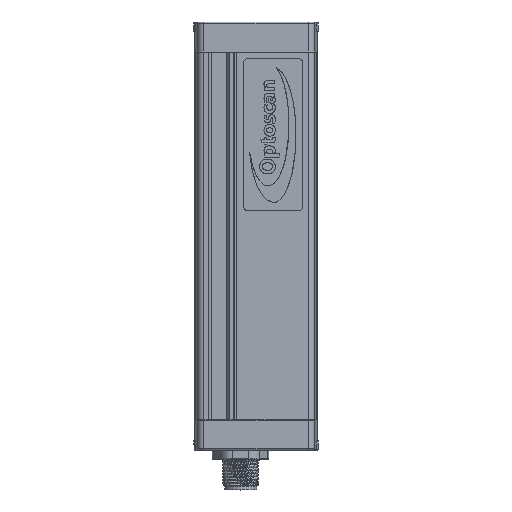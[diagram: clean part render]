
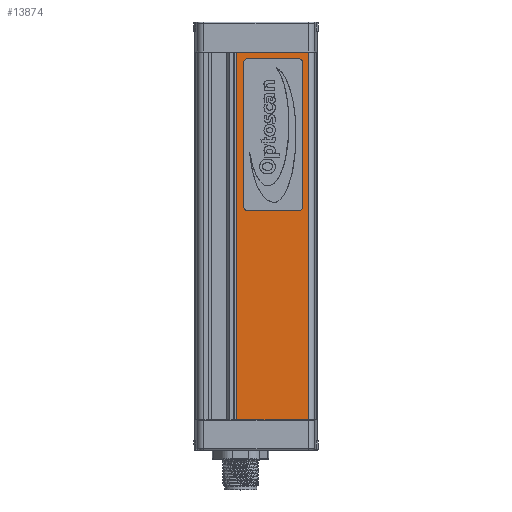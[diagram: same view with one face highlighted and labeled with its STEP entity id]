
A CAD part, top view. The second image highlights one B-rep face of the part: STEP entity #13874.
In plain terms, the highlighted planar face has unit normal (0, 0, 1).
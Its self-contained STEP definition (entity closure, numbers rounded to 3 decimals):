
#178=FACE_BOUND('',#2285,.T.);
#461=CIRCLE('',#14585,1.45);
#467=CIRCLE('',#14593,1.45);
#471=CIRCLE('',#14599,1.45);
#475=CIRCLE('',#14605,1.45);
#1052=PLANE('',#14718);
#1510=FACE_OUTER_BOUND('',#2284,.T.);
#2284=EDGE_LOOP('',(#9922,#9923,#9924,#9925));
#2285=EDGE_LOOP('',(#9926,#9927,#9928,#9929,#9930,#9931,#9932,#9933));
#3345=LINE('',#20295,#4416);
#3347=LINE('',#20307,#4418);
#3349=LINE('',#20319,#4420);
#3351=LINE('',#20328,#4422);
#3562=LINE('',#22495,#4633);
#3563=LINE('',#22497,#4634);
#3564=LINE('',#22499,#4635);
#3565=LINE('',#22500,#4636);
#4416=VECTOR('',#16169,10.);
#4418=VECTOR('',#16183,10.);
#4420=VECTOR('',#16197,10.);
#4422=VECTOR('',#16209,10.);
#4633=VECTOR('',#16644,10.);
#4634=VECTOR('',#16645,10.);
#4635=VECTOR('',#16646,10.);
#4636=VECTOR('',#16647,10.);
#5576=VERTEX_POINT('',#20283);
#5577=VERTEX_POINT('',#20285);
#5579=VERTEX_POINT('',#20291);
#5581=VERTEX_POINT('',#20297);
#5583=VERTEX_POINT('',#20303);
#5585=VERTEX_POINT('',#20309);
#5587=VERTEX_POINT('',#20315);
#5589=VERTEX_POINT('',#20321);
#5831=VERTEX_POINT('',#22493);
#5832=VERTEX_POINT('',#22494);
#5833=VERTEX_POINT('',#22496);
#5834=VERTEX_POINT('',#22498);
#6939=EDGE_CURVE('',#5576,#5577,#461,.T.);
#6944=EDGE_CURVE('',#5577,#5579,#3345,.T.);
#6947=EDGE_CURVE('',#5579,#5581,#467,.T.);
#6950=EDGE_CURVE('',#5581,#5583,#3347,.T.);
#6953=EDGE_CURVE('',#5583,#5585,#471,.T.);
#6956=EDGE_CURVE('',#5585,#5587,#3349,.T.);
#6959=EDGE_CURVE('',#5587,#5589,#475,.T.);
#6961=EDGE_CURVE('',#5589,#5576,#3351,.T.);
#7330=EDGE_CURVE('',#5831,#5832,#3562,.T.);
#7331=EDGE_CURVE('',#5832,#5833,#3563,.T.);
#7332=EDGE_CURVE('',#5834,#5833,#3564,.T.);
#7333=EDGE_CURVE('',#5831,#5834,#3565,.T.);
#9922=ORIENTED_EDGE('',*,*,#7330,.T.);
#9923=ORIENTED_EDGE('',*,*,#7331,.T.);
#9924=ORIENTED_EDGE('',*,*,#7332,.F.);
#9925=ORIENTED_EDGE('',*,*,#7333,.F.);
#9926=ORIENTED_EDGE('',*,*,#6939,.F.);
#9927=ORIENTED_EDGE('',*,*,#6961,.F.);
#9928=ORIENTED_EDGE('',*,*,#6959,.F.);
#9929=ORIENTED_EDGE('',*,*,#6956,.F.);
#9930=ORIENTED_EDGE('',*,*,#6953,.F.);
#9931=ORIENTED_EDGE('',*,*,#6950,.F.);
#9932=ORIENTED_EDGE('',*,*,#6947,.F.);
#9933=ORIENTED_EDGE('',*,*,#6944,.F.);
#13874=ADVANCED_FACE('',(#1510,#178),#1052,.T.);
#14585=AXIS2_PLACEMENT_3D('',#20286,#16158,#16159);
#14593=AXIS2_PLACEMENT_3D('',#20301,#16176,#16177);
#14599=AXIS2_PLACEMENT_3D('',#20313,#16190,#16191);
#14605=AXIS2_PLACEMENT_3D('',#20325,#16204,#16205);
#14718=AXIS2_PLACEMENT_3D('',#22492,#16642,#16643);
#16158=DIRECTION('center_axis',(0.,0.,
1.));
#16159=DIRECTION('ref_axis',(1.,0.,0.));
#16169=DIRECTION('',(1.,0.,0.));
#16176=DIRECTION('center_axis',(0.,0.,
1.));
#16177=DIRECTION('ref_axis',(1.,0.,0.));
#16183=DIRECTION('',(0.,1.,0.));
#16190=DIRECTION('center_axis',(0.,0.,
1.));
#16191=DIRECTION('ref_axis',(1.,0.,0.));
#16197=DIRECTION('',(-1.,0.,0.));
#16204=DIRECTION('center_axis',(0.,0.,
1.));
#16205=DIRECTION('ref_axis',(1.,0.,0.));
#16209=DIRECTION('',(0.,-1.,0.));
#16642=DIRECTION('center_axis',(0.,0.,
1.));
#16643=DIRECTION('ref_axis',(1.,0.,0.));
#16644=DIRECTION('',(1.,0.,0.));
#16645=DIRECTION('',(0.,1.,0.));
#16646=DIRECTION('',(1.,0.,0.));
#16647=DIRECTION('',(0.,1.,0.));
#20283=CARTESIAN_POINT('',(-42.765,69.7,28.879));
#20285=CARTESIAN_POINT('',(-41.315,68.25,28.879));
#20286=CARTESIAN_POINT('Origin',(-41.315,69.7,28.879));
#20291=CARTESIAN_POINT('',(-24.915,68.25,28.879));
#20295=CARTESIAN_POINT('',(-37.215,68.25,28.879));
#20297=CARTESIAN_POINT('',(-23.465,69.7,28.879));
#20301=CARTESIAN_POINT('Origin',(-24.915,69.7,28.879));
#20303=CARTESIAN_POINT('',(-23.465,116.5,28.879));
#20307=CARTESIAN_POINT('',(-23.465,81.4,28.879));
#20309=CARTESIAN_POINT('',(-24.915,117.95,28.879));
#20313=CARTESIAN_POINT('Origin',(-24.915,116.5,28.879));
#20315=CARTESIAN_POINT('',(-41.315,117.95,28.879));
#20319=CARTESIAN_POINT('',(-29.015,117.95,28.879));
#20321=CARTESIAN_POINT('',(-42.765,116.5,28.879));
#20325=CARTESIAN_POINT('Origin',(-41.315,116.5,28.879));
#20328=CARTESIAN_POINT('',(-42.765,104.8,28.879));
#22492=CARTESIAN_POINT('Origin',(-44.965,0.,
28.879));
#22493=CARTESIAN_POINT('',(-44.965,0.,28.879));
#22494=CARTESIAN_POINT('',(-21.664,0.,28.879));
#22495=CARTESIAN_POINT('',(-44.965,0.,28.879));
#22496=CARTESIAN_POINT('',(-21.664,120.,28.879));
#22497=CARTESIAN_POINT('',(-21.664,0.,28.879));
#22498=CARTESIAN_POINT('',(-44.965,120.,28.879));
#22499=CARTESIAN_POINT('',(-44.965,120.,28.879));
#22500=CARTESIAN_POINT('',(-44.965,0.,28.879));
